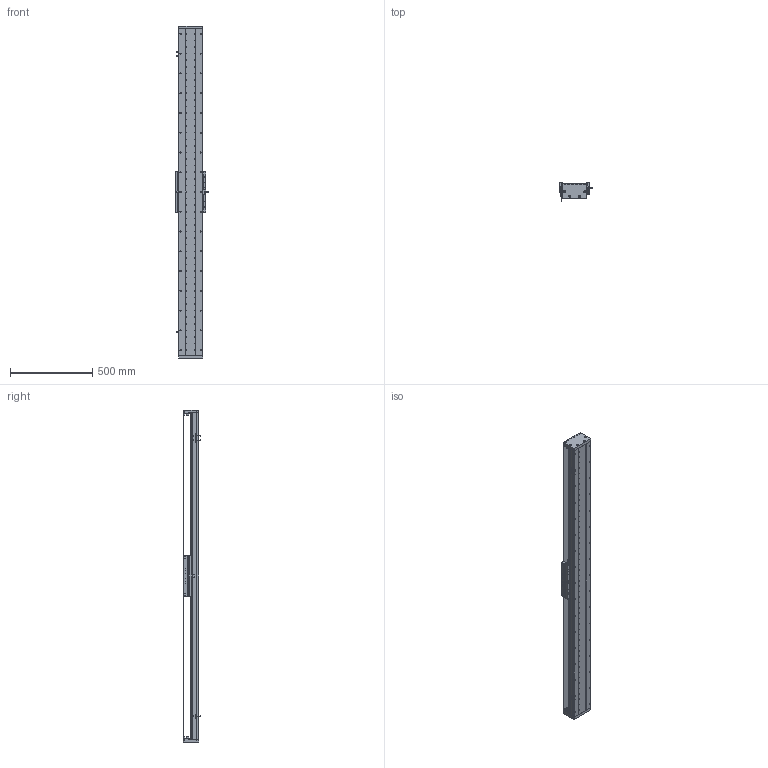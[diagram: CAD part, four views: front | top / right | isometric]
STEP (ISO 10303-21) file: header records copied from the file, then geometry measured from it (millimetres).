
FILE_DESCRIPTION (( 'STEP AP203' ), '1' );
FILE_NAME ('DA-C145-C3-T1680-C010-0.2 眻盄萇儂.STEP', '2025-08-14T01:28:00', ( '' ), ( '' ), 'SwSTEP 2.0', 'SolidWorks 2019', '' );
FILE_SCHEMA (( 'CONFIG_CONTROL_DESIGN' ));
Length unit declared in the file: millimetre
Products named in the file (32): CU145-W-00 珨极趙賑雄怢啣; 复件 DA145-C3-DK-00 挡块^CU145-W 滚珠滑台; 复件 DA145-C3-YB-B-00 压板B^CU145-W 滚珠滑台; 葩璃 CKM03-W060-C1C2-TP-0.2^DA-C145-C3-T-C010-0.2; 葩璃 DMA-010-0.2 黍杅芛^DA-C145-C3-T-C010-0.2; 复件 DA145-GYP-00 光电感应片^DA-C145-C3-T-C010-0.2; 葩璃 PM-T45^DA-C145-C3-T-C010-0.2; 葩璃 DA95-HXJ-00 遣喳砎蝶^DA-C145-C3-T-C010-0.2; 复件 DA145-DG 钢带端盖^复件 CU145 钢带组件_DA-C145-C3-T-C010-0.2; 复件 DA146 钢带拉块^复件 CU145 钢带组件_DA-C145-C3-T-C010-0.2; IU-CU145-L-00 菁釱(L1980); TAY01-M8; 复件 DA145 钢带^复件 CU145 钢带组件_DA-C145-C3-T-C010-0.2; 葩璃 CU145 詩湍郪璃^DA-C145-C3-T-C010-0.2; 葩璃 DA145-C3-DP-A-00 菜えA^CU145-W 幗紩賑怢; 复件 半圆头内六角螺钉 M3×6^CU145-W 滚珠滑台; 复件 DA145-C3-YB-A-00 压板A^CU145-W 滚珠滑台; 复件 纯铜油杯 6x6mm^CU145-W 滚珠滑台; 复件 DA95-MFP-01 密封片^CU145-W 滚珠滑台; 葩璃 鞠褒情蹟譫 M3^DA-C145-C3-T-C010-0.2; DA-C145-C3-T1680-C010-0.2 眻盄萇儂; 葩璃 CKMA01-W060-TRL^DA-C145-C3-T-C010-0.2; CU145-W 幗紩賑怢; 葩璃 DA95-GT-T-00^IU-CU145-L 菁釱絳寢; 葩璃 XD-U-02L 棠掑喜^DA-C145-C3-T-C010-0.2; IU-CU145-L 菁釱絳寢; 复件 DA95-HK-GT-00 滑块钢轨^CU145-W-00 一体化滑动台板; 复件 DA146 钢带垫块^复件 CU145 钢带组件_DA-C145-C3-T-C010-0.2; 复件 DA95-DB-00  挡板^CU145-W 滚珠滑台; 66245-CU145-HT-W-00 賑雄怢啣(3D芞祧)(00); 葩璃 DA145-C3-DP-B-00 菜えB^CU145-W 幗紩賑怢; 复件 内六角平端紧定螺钉 GB.T77-2000 M5×10^CU145-W 滚珠滑台
Assembly tree (103 placements, depth 4):
  DA-C145-C3-T1680-C010-0.2 眻盄萇儂
    IU-CU145-L 菁釱絳寢
      IU-CU145-L-00 菁釱(L1980)
      葩璃 DA95-GT-T-00^IU-CU145-L 菁釱絳寢  x4
    葩璃 CU145 詩湍郪璃^DA-C145-C3-T-C010-0.2
      复件 DA145-DG 钢带端盖^复件 CU145 钢带组件_DA-C145-C3-T-C010-0.2  x2
      复件 DA146 钢带拉块^复件 CU145 钢带组件_DA-C145-C3-T-C010-0.2  x2
      复件 DA146 钢带垫块^复件 CU145 钢带组件_DA-C145-C3-T-C010-0.2  x2
      复件 DA145 钢带^复件 CU145 钢带组件_DA-C145-C3-T-C010-0.2
    CU145-W 幗紩賑怢
      CU145-W-00 珨极趙賑雄怢啣
        66245-CU145-HT-W-00 賑雄怢啣(3D芞祧)(00)
        复件 DA95-HK-GT-00 滑块钢轨^CU145-W-00 一体化滑动台板  x8
      复件 DA95-MFP-01 密封片^CU145-W 滚珠滑台  x8
      复件 DA95-DB-00  挡板^CU145-W 滚珠滑台  x8
      复件 内六角平端紧定螺钉 GB.T77-2000 M5×10^CU145-W 滚珠滑台  x4
      复件 纯铜油杯 6x6mm^CU145-W 滚珠滑台  x4
      复件 半圆头内六角螺钉 M3×6^CU145-W 滚珠滑台  x16
      复件 DA145-C3-DK-00 挡块^CU145-W 滚珠滑台  x4
      葩璃 DA145-C3-DP-B-00 菜えB^CU145-W 幗紩賑怢  x2
      复件 DA145-C3-YB-B-00 压板B^CU145-W 滚珠滑台  x2
      葩璃 DA145-C3-DP-A-00 菜えA^CU145-W 幗紩賑怢  x3
      复件 DA145-C3-YB-A-00 压板A^CU145-W 滚珠滑台  x3
      TAY01-M8  x4
    葩璃 CKMA01-W060-TRL^DA-C145-C3-T-C010-0.2
    葩璃 PM-T45^DA-C145-C3-T-C010-0.2  x3
    葩璃 XD-U-02L 棠掑喜^DA-C145-C3-T-C010-0.2
    葩璃 DA95-HXJ-00 遣喳砎蝶^DA-C145-C3-T-C010-0.2  x4
    复件 DA145-GYP-00 光电感应片^DA-C145-C3-T-C010-0.2
    葩璃 DMA-010-0.2 黍杅芛^DA-C145-C3-T-C010-0.2
    葩璃 CKM03-W060-C1C2-TP-0.2^DA-C145-C3-T-C010-0.2
    葩璃 鞠褒情蹟譫 M3^DA-C145-C3-T-C010-0.2  x8
Bounding box: 203.5 x 108.45 x 2016 mm (x, y, z)
Volume: 10034359.3 mm3; surface area: 3270576.2 mm2
Topology: 99 solids, 131 shells, 4418 faces, 12284 edges, 7654 vertices
Faces by surface type: cylinder 2064, plane 1586, cone 690, torus 74, sphere 4
Entity records: 113494 total; most frequent: CARTESIAN_POINT 32016, ORIENTED_EDGE 16088, DIRECTION 15699, EDGE_CURVE 8044, AXIS2_PLACEMENT_3D 5884, VERTEX_POINT 5193, LINE 3931, VECTOR 3931
